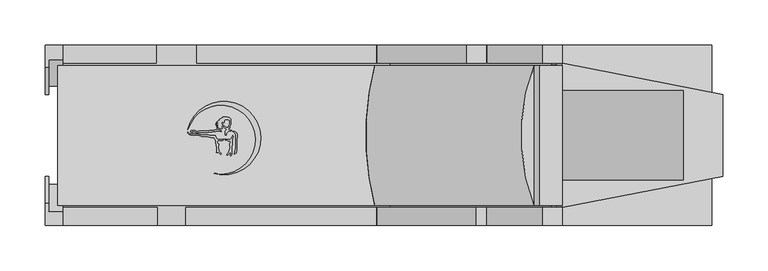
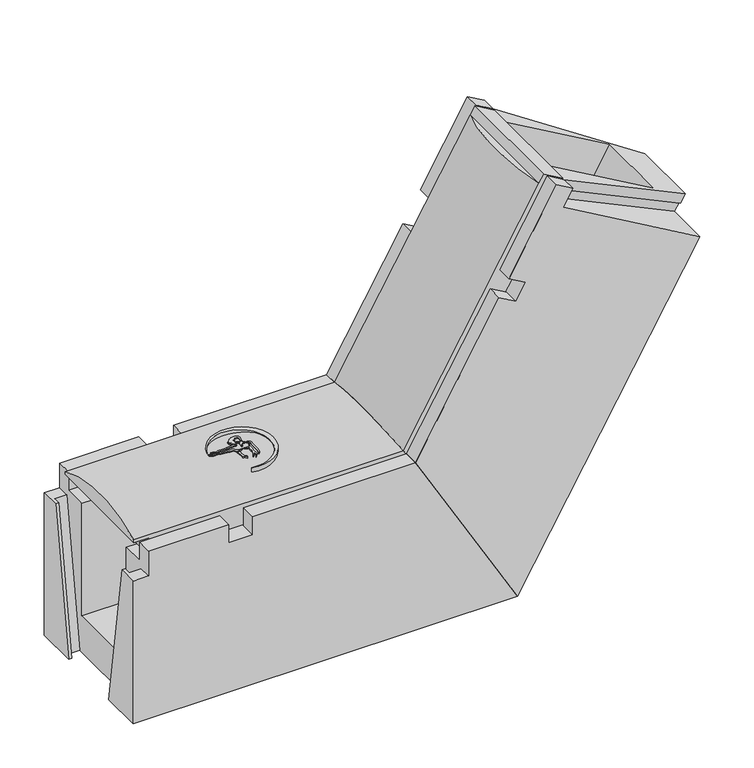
"""IFC4 building model written with IfcOpenShell, lengths in millimetres: cable carrier fitting geometry, Evotray type 1 vertical bend up : Evotray type 1 vertical bend up."""

from ifc_helpers import new_model, si_unit, point, frame, frame_2d, origin, place, context, project, spatial, polyline, circle_curve, ellipse_curve, trimmed, segment, composite_curve, outline, extrude, faceted_brep, source, transform, mapped, element, save
from ifc_brep_helpers import plane_surface, cylinder_surface, advanced_brep


def cable_carrier_fitting_fc5104e9(model_context):
    return source(origin(), model_context, "Body", "SolidModel", [
        extrude(outline(composite_curve([segment(polyline([(-180.1987673, 5.907559), (-178.7730763, 5.0844359), (-179.4820077, 4.6751342), (-182.0469375, 4.6751342), (-184.5064308, 2.2156409), (-184.5064308, 0.6319729), (-185.5639447, 0.3486129), (-185.8953119, 1.5852919), (-185.5730905, 2.7878385), (-185.5730905, 5.0146536), (-184.1065498, 6.4811943), (-184.5064308, 7.1738084), (-185.5730905, 7.7896447), (-186.4313624, 8.2851682), (-187.4244859, 9.2782918), (-187.4244859, 10.5283487), (-186.6366917, 10.0735155), (-185.5730905, 9.0099142), (-184.5064308, 8.394078), (-182.1936661, 8.394078), (-181.5617675, 9.0259766), (-181.5617675, 10.6343813), (-181.1559104, 11.3373462), (-180.9163405, 12.2314336), (-180.9163405, 16.3268685), (-181.5617675, 16.9722955), (-185.5730905, 17.3232408), (-186.3212546, 16.8912881), (-186.7531031, 16.1433045), (-186.9754965, 15.313321), (-187.2482129, 13.7666695), (-187.8042347, 14.3226912), (-188.3698905, 14.8883471), (-189.3304254, 14.8883471), (-189.8048648, 14.0665939), (-189.8048648, 13.2416885), (-189.4028177, 12.5453225), (-188.675123, 11.8176278), (-189.0717623, 10.3373496), (-189.4092623, 9.0777826), (-189.1064549, 7.3604762), (-189.907248, 7.2192748), (-191.6376932, 7.6829462), (-192.8844025, 8.2642963), (-193.6376597, 8.6155459), (-195.2371082, 8.33352), (-194.7695498, 9.1433549), (-193.1127288, 9.7463885)]), True, "CONTINUOUS"), segment(trimmed(circle_curve(frame_2d((-193.6788564, 9.4744491)), 0.6280537), [point((-193.1127288, 9.7463885))], [point((-193.8344386, 10.0829273))], True, "CARTESIAN"), True, "CONTINUOUS"), segment(polyline([(-193.8344386, 10.0829273), (-195.7814537, 10.0829273), (-195.2232755, 10.6411054), (-194.3724958, 10.9507639), (-193.5540563, 11.2486515)]), True, "CONTINUOUS"), segment(trimmed(circle_curve(frame_2d((-194.2923812, 11.2486515)), 0.7383249), [point((-193.5540563, 11.2486515))], [point((-194.2923812, 11.9869764))], True, "CARTESIAN"), True, "CONTINUOUS"), segment(polyline([(-194.2923812, 11.9869764), (-196.0001288, 11.9869764), (-196.3916504, 12.6651117), (-194.5730583, 12.9857785), (-193.2767203, 13.457607), (-193.897473, 14.0783597), (-195.8606925, 14.0783597), (-195.30811, 14.6309421), (-194.2782773, 15.2255163), (-193.603553, 15.9002407), (-192.8807357, 16.3175594), (-191.9057237, 16.8804829)]), True, "CONTINUOUS"), segment(trimmed(circle_curve(frame_2d((-192.1167091, 17.2459203)), 0.4219708), [point((-191.9057237, 16.8804829))], [point((-192.3276945, 17.6113577))], True, "CARTESIAN"), True, "CONTINUOUS"), segment(polyline([(-192.3276945, 17.6113577), (-191.7102978, 18.2287544), (-190.4076278, 18.7028875), (-189.4125713, 19.2773836), (-188.2810347, 19.4769041), (-188.6348604, 20.4490324), (-183.6348604, 20.4490324), (-182.6206866, 19.9761154), (-181.4988316, 19.6755153), (-180.4843855, 19.0898245), (-179.3757091, 17.9811481), (-179.3757091, 15.4151328), (-179.8646262, 14.5683035), (-179.8646262, 11.8362675), (-180.3536612, 10.7875287), (-180.760463, 10.0829273), (-180.760463, 8.2341629), (-181.5617675, 7.7715296), (-182.3950459, 7.6246001)]), True, "CONTINUOUS"), segment(trimmed(circle_curve(frame_2d((-181.3420944, 7.3424626)), 1.0900956), [point((-182.3950459, 7.6246001))], [point((-181.6242319, 6.2895111))], True, "CARTESIAN"), True, "CONTINUOUS"), segment(polyline([(-181.6242319, 6.2895111), (-180.1987673, 5.907559)]), True, "CONTINUOUS")], self_intersect=False)), frame((0.0, 0.0, 229.0645802), z_axis=(0.0, 0.0, 1.0), x_axis=(1.0, 0.0, 0.0)), (0.0, 0.0, 1.0), 22.5),
        extrude(outline(polyline([(-175.6420581, 3.0525563), (-177.5647021, 4.1625953), (-176.375462, 4.4812513), (-175.0006066, 3.9808448), (-172.8744575, 2.753312), (-172.462808, 1.2170154), (-172.462808, -1.5561738), (-172.8811889, -3.9289297), (-173.2073261, -13.2682758), (-173.2073261, -16.1231727), (-173.766974, -19.297094), (-174.9259981, -20.4561181), (-175.8234867, -20.4561181), (-175.1486125, -18.6019165), (-174.8396569, -16.8497423), (-174.3251997, -13.9321102), (-174.3251997, -2.6926455), (-173.883565, -0.1880111), (-174.4260419, 1.8365401), (-175.6420581, 3.0525563)])), frame((0.0, 0.0, 229.0645802), z_axis=(0.0, 0.0, 1.0), x_axis=(1.0, 0.0, 0.0)), (0.0, 0.0, 1.0), 22.5),
        extrude(outline(composite_curve([segment(polyline([(-183.070307, -4.5554644), (-181.0881056, -4.5554644), (-179.6198413, -4.2965698), (-178.3145593, -2.9912878), (-177.1344504, -0.4605362), (-176.6534984, -1.7819409), (-177.2762062, -3.117342), (-177.9468137, -4.5554644), (-177.9468137, -10.5136603), (-178.3751928, -12.943119), (-178.3751928, -21.4242609), (-179.8238515, -22.8729196), (-180.3965887, -22.3001824), (-179.7178687, -20.5578122), (-179.4597233, -19.0937972)]), True, "CONTINUOUS"), segment(trimmed(circle_curve(frame_2d((-179.8743713, -19.0937972)), 0.414648), [point((-179.4597233, -19.0937972))], [point((-180.2890194, -19.0937972))], True, "CARTESIAN"), True, "CONTINUOUS"), segment(polyline([(-180.2890194, -19.0937972), (-181.0547081, -19.8594859), (-182.3215546, -21.3692548), (-182.9770637, -22.0247639), (-183.7693849, -21.6552984), (-181.605165, -18.4467105), (-181.2992553, -16.7118106), (-180.4571975, -14.9060116), (-180.19999, -13.4473154), (-180.9884987, -12.0815782), (-180.9884987, -9.315031), (-179.6653502, -7.4454743)]), True, "CONTINUOUS"), segment(trimmed(circle_curve(frame_2d((-180.0024552, -7.2068937)), 0.4129897), [point((-179.6653502, -7.4454743))], [point((-180.2410358, -6.8697887))], True, "CARTESIAN"), True, "CONTINUOUS"), segment(polyline([(-180.2410358, -6.8697887), (-182.2448508, -6.516462), (-183.6887473, -5.843162), (-185.508748, -4.9944818), (-185.508748, -4.1255015), (-183.070307, -4.5554644)]), True, "CONTINUOUS")], self_intersect=False)), frame((0.0, 0.0, 229.0645802), z_axis=(0.0, 0.0, 1.0), x_axis=(1.0, 0.0, 0.0)), (0.0, 0.0, 1.0), 22.5),
        extrude(outline(composite_curve([segment(polyline([(-225.4819029, 2.2537302), (-223.7462291, 1.4443722), (-219.5597552, 1.4443722), (-218.4890341, 1.731271), (-217.1624965, 1.731271), (-215.4413877, 1.4443722), (-213.4350656, 0.9067798), (-212.2818775, 0.597784), (-206.5899708, 0.597784), (-203.9734749, 0.1616293), (-202.6459123, -0.19409), (-197.03167, -0.19409)]), True, "CONTINUOUS"), segment(trimmed(circle_curve(frame_2d((-188.1781038, 2.7115165)), 9.3181642), [point((-197.03167, -0.19409))], [point((-193.6774022, -4.8108435))], True, "CARTESIAN"), True, "CONTINUOUS"), segment(polyline([(-193.6774022, -4.8108435), (-190.6256174, -4.8108435), (-188.5910388, -4.632841), (-187.4520349, -4.1017147), (-187.7095548, -5.0627921), (-188.6536491, -5.6078652), (-189.612336, -5.9567987), (-192.847041, -5.8438403), (-194.0357356, -6.2764898), (-194.44473, -7.153581), (-194.3696494, -8.0117562), (-193.8907652, -8.8412079), (-193.1701597, -9.5618134), (-193.1701597, -11.3180259), (-193.53546, -12.3216801), (-193.3911934, -13.970655), (-192.8861011, -15.8556852), (-192.737982, -17.5486944), (-190.3666469, -20.2766033), (-190.5753239, -21.4600691), (-193.1701597, -18.8652332), (-194.1329913, -19.1232231), (-195.5361675, -18.8758053), (-195.2606072, -18.1187094), (-195.2606072, -15.8446539), (-195.0850033, -14.8487551), (-195.2606072, -12.8415943), (-195.6362696, -11.8094702), (-195.6362696, -9.9842873), (-196.0826053, -9.0271173), (-196.0826053, -6.6493678), (-196.3310455, -5.7221762), (-196.7830159, -4.9393406), (-197.2317276, -4.1621491), (-197.84617, -3.5477067), (-198.2800213, -2.6173096), (-201.8809595, -2.4915621), (-204.2251115, -2.1008055), (-206.2577048, -1.5561738), (-209.5993244, -1.2049554), (-211.6789374, -1.2049554), (-213.021172, -0.8453047), (-214.5447671, -0.4370587), (-215.8880204, 0.1893106), (-216.8824091, 0.1893106), (-219.5338495, 0.1893106), (-220.6460936, -0.1087143), (-222.5093755, 0.0871245), (-223.9984504, 0.3353447), (-225.6717579, 1.1156208), (-226.6476843, 2.0915471), (-227.2867674, 2.7306302), (-227.2867674, 3.5175099), (-225.4819029, 2.2537302)]), True, "CONTINUOUS")], self_intersect=False)), frame((0.0, 0.0, 229.0645802), z_axis=(0.0, 0.0, 1.0), x_axis=(1.0, 0.0, 0.0)), (0.0, 0.0, 1.0), 22.5),
        extrude(outline(composite_curve([segment(polyline([(-222.9796703, 3.7977023), (-221.956356, 3.2068915), (-223.6840165, 3.7265624), (-224.014163, 4.6441261), (-223.1758386, 5.4824506), (-220.30302, 5.4824506), (-219.318583, 5.0847122), (-218.2280942, 4.6441261), (-217.4299007, 4.1832889), (-216.1696706, 4.1832889), (-215.3486455, 4.4787), (-214.4633932, 4.9898007), (-208.0496883, 4.9898007), (-207.1941137, 4.6441261), (-206.1237116, 4.6441261), (-205.1629915, 4.9898007), (-203.9838348, 4.9898007), (-203.2654957, 5.4045339), (-197.8528405, 5.4045339), (-197.0925598, 5.6780888), (-195.8504018, 5.6780888), (-195.2746333, 6.2538574), (-193.3170698, 6.2538574), (-192.0290688, 5.7334711), (-191.0171524, 5.1492409), (-190.2127113, 4.8242256)]), True, "CONTINUOUS"), segment(trimmed(circle_curve(frame_2d((-190.6200436, 4.6596527)), 0.4393221), [point((-190.2127113, 4.8242256))], [point((-190.7846166, 4.2523203))], False, "CARTESIAN"), True, "CONTINUOUS"), segment(polyline([(-190.7846166, 4.2523203), (-191.8003453, 4.6627013), (-193.112003, 4.6627013), (-194.382433, 4.8867124), (-195.1944574, 4.5945398), (-196.3374314, 4.1832889), (-199.6816293, 4.1832889), (-200.4727027, 3.7265624), (-204.0400229, 3.7265624), (-204.9228853, 3.2168416), (-214.9228853, 3.2168416), (-217.5335493, 2.9884381), (-221.222077, 4.4787), (-223.3728446, 4.4787), (-222.9796703, 3.7977023)]), True, "CONTINUOUS")], self_intersect=False)), frame((0.0, 0.0, 229.0645802), z_axis=(0.0, 0.0, 1.0), x_axis=(1.0, 0.0, 0.0)), (0.0, 0.0, 1.0), 22.5),
        extrude(outline(composite_curve([segment(trimmed(circle_curve(frame_2d((-190.3994103, -4.8721323)), 38.3616107), [point((-197.8072471, -42.511701))], [point((-227.1109456, 6.2578432))], True, "CARTESIAN"), True, "CONTINUOUS"), segment(trimmed(circle_curve(frame_2d((-187.2700096, -2.9917986)), 40.900563), [point((-227.1109456, 6.2578432))], [point((-197.8072471, -42.511701))], False, "CARTESIAN"), True, "CONTINUOUS")], self_intersect=False)), frame((0.0, 0.0, 229.0645802), z_axis=(0.0, 0.0, 1.0), x_axis=(1.0, 0.0, 0.0)), (0.0, 0.0, 1.0), 22.5),
        advanced_brep(
        [(-3.3568052, -77.5, 205.0), (187.4647922, -77.5, 535.5127019), (162.3708892, -77.5, 550.0006735), (156.3708892, -77.5, 539.6083687), (-20.099963, -77.5, 234.0), (187.4647922, 77.5, 535.5127019), (-3.3568052, 77.5, 205.0), (-20.099963, 77.5, 234.0), (156.3500555, 77.5, 539.620397), (162.3708892, 77.5, 550.0006735)],
        [
            (0, 1),
            (1, 2),
            (2, 3),
            (3, 4),
            (4, 0),
            (5, 6),
            (6, 7),
            (7, 8),
            (8, 9),
            (9, 5),
            (1, 5),
            (9, 2),
            (6, 0),
            (4, 7, ellipse_curve(frame((77.2436862, 0.0, 65.3958538), z_axis=(-0.8660254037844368, 0.0, -0.5000000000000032), x_axis=(-0.5000000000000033, 0.0, 0.8660254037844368)), 214.2696373, 185.5629492)),
            (8, 3),
            (8, 3, circle_curve(frame((302.3655293, 0.0, 455.318324), z_axis=(0.500000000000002, 0.0, 0.8660254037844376), x_axis=(0.0, -1.0, 0.0)), 185.5629492)),
        ],
        [
            plane_surface(frame((187.4647922, -77.5, 535.5127019), z_axis=(0.0, -1.0, 0.0), x_axis=(-0.8660254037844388, 0.0, 0.4999999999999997))),
            plane_surface(frame((187.4647922, 77.5, 535.5127019), z_axis=(0.0, 1.0, 0.0), x_axis=(0.8660254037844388, 0.0, -0.4999999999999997))),
            plane_surface(frame((187.4647922, -77.5, 535.5127019), z_axis=(0.4999999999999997, 0.0, 0.8660254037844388), x_axis=(0.0, 1.0, 0.0))),
            plane_surface(frame((-29.9149176, -77.5, 251.0), z_axis=(-0.8660254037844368, 0.0, -0.5000000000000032), x_axis=(0.0, 1.0, 0.0))),
            plane_surface(frame((-3.3568052, -77.5, 205.0), z_axis=(0.8660254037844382, 0.0, -0.5000000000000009), x_axis=(0.0, 1.0, 0.0))),
            plane_surface(frame((162.3708892, -77.5, 550.0006735), z_axis=(-0.866025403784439, 0.0, 0.4999999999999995), x_axis=(-0.4999999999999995, 0.0, -0.866025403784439))),
            plane_surface(frame((156.3708892, -77.5, 539.6083687), z_axis=(0.5000000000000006, 0.0, 0.8660254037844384), x_axis=(-0.8660254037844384, 0.0, 0.5000000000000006))),
            cylinder_surface(frame((124.18346, 0.0, 146.6979269), z_axis=(0.500000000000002, 0.0, 0.8660254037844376), x_axis=(0.0, -1.0, 0.0)), 185.5629492),
        ],
        [
            (0, [[1, 2, 3, 4, 5]]),
            (1, [[6, 7, 8, 9, 10]]),
            (2, [[11, -10, 12, -2]]),
            (3, [[13, -5, 14, -7]]),
            (4, [[-1, -13, -6, -11]]),
            (5, [[15, -3, -12, -9]]),
            (6, [[-15, 16]]),
            (7, [[-4, -16, -8, -14]]),
        ],
    ),
        advanced_brep(
        [(-351.0, -77.5, 205.0), (-3.3568052, -77.5, 205.0), (-20.099963, -77.5, 234.0), (-371.0, -77.5, 234.0), (-371.0, -77.5, 230.0), (-351.0, -77.5, 230.0), (-3.3568052, 77.5, 205.0), (-351.0, 77.5, 205.0), (-351.0, 77.5, 230.0), (-371.0, 77.5, 230.0), (-371.0, 77.5, 234.0), (-20.099963, 77.5, 234.0)],
        [
            (0, 1),
            (1, 2),
            (2, 3),
            (3, 4),
            (4, 5),
            (5, 0),
            (6, 7),
            (7, 8),
            (8, 9),
            (9, 10),
            (10, 11),
            (11, 6),
            (9, 4),
            (3, 10, circle_curve(frame((-371.0, 0.0, 65.3958538), z_axis=(-1.0, 0.0, 0.0), x_axis=(0.0, -1.0, 0.0)), 185.5629492)),
            (6, 1),
            (0, 7),
            (11, 2, ellipse_curve(frame((77.2436862, 0.0, 65.3958538), z_axis=(0.8660254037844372, 0.0, 0.5000000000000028), x_axis=(0.5000000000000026, 0.0, -0.8660254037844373)), 214.2696373, 185.5629492)),
            (8, 5),
        ],
        [
            plane_surface(frame((-371.0, -77.5, 205.0), z_axis=(0.0, -1.0, 0.0), x_axis=(0.0, 0.0, -1.0))),
            plane_surface(frame((-371.0, 77.5, 205.0), z_axis=(0.0, 1.0, 0.0), x_axis=(0.0, 0.0, 1.0))),
            plane_surface(frame((-371.0, -77.5, 251.0), z_axis=(-1.0, 0.0, 0.0), x_axis=(0.0, 1.0, 0.0))),
            plane_surface(frame((-371.0, -77.5, 205.0), z_axis=(0.0, 0.0, -1.0), x_axis=(0.0, 1.0, 0.0))),
            plane_surface(frame((-3.3568052, -77.5, 205.0), z_axis=(0.8660254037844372, 0.0, 0.5000000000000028), x_axis=(0.0, 1.0, 0.0))),
            plane_surface(frame((-371.0, 77.5, 230.0), z_axis=(0.0, 0.0, -1.0), x_axis=(-1.0, 0.0, 0.0))),
            plane_surface(frame((-351.0, -77.5, 230.0), z_axis=(-1.0, 0.0, 0.0), x_axis=(0.0, 0.0, -1.0))),
            cylinder_surface(frame((-371.0, 0.0, 65.3958538), z_axis=(1.0, 0.0, 0.0), x_axis=(0.0, -1.0, 0.0)), 185.5629492),
        ],
        [
            (0, [[1, 2, 3, 4, 5, 6]]),
            (1, [[7, 8, 9, 10, 11, 12]]),
            (2, [[13, -4, 14, -10]]),
            (3, [[15, -1, 16, -7]]),
            (4, [[-15, -12, 17, -2]]),
            (5, [[18, -5, -13, -9]]),
            (6, [[-18, -8, -16, -6]]),
            (7, [[-3, -17, -11, -14]]),
        ],
    ),
        faceted_brep([(-17.7905619, -100.0, 230.0), (115.0, -100.0, 0.0), (352.5, -100.0, 411.3620668), (174.9647922, -100.0, 513.8620668), (187.4647922, -100.0, 535.5127019), (165.8141571, -100.0, 548.0127019), (103.8141571, -100.0, 440.6255518), (125.4647922, -100.0, 428.1255518), (112.9647922, -100.0, 406.4749167), (91.3141571, -100.0, 418.9749167), (115.0, 100.0, 0.0), (-17.7905619, 100.0, 230.0), (81.8141571, 100.0, 402.5204341), (103.4647922, 100.0, 390.0204341), (125.9647922, 100.0, 428.9915772), (104.3141571, 100.0, 441.4915772), (165.8141571, 100.0, 548.0127019), (187.4647922, 100.0, 535.5127019), (174.9647922, 100.0, 513.8620668), (352.5, 100.0, 411.3620668), (187.4647922, -50.0, 535.5127019), (187.4647922, -80.0, 535.5127019), (365.0, -45.4, 433.0127019), (365.0, 45.4, 433.0127019), (187.4647922, 80.0, 535.5127019), (187.4647922, 50.0, 535.5127019), (321.6987298, 50.0, 458.0127019), (321.6987298, -50.0, 458.0127019), (165.8141571, -80.0, 548.0127019), (165.8141571, 80.0, 548.0127019), (103.8141571, -80.0, 440.6255518), (104.3141571, 80.0, 441.4915772), (-17.7905619, -80.0, 230.0), (91.3141571, -80.0, 418.9749167), (-17.7905619, 80.0, 230.0), (81.8141571, 80.0, 402.5204341), (-3.3568052, -80.0, 205.0), (-3.3568052, -50.0, 205.0), (86.1324865, -50.0, 50.0), (86.1324865, 50.0, 50.0), (-3.3568052, 50.0, 205.0), (-3.3568052, 80.0, 205.0), (352.5, 43.0, 411.3620668), (358.5, 43.0, 421.7543716), (358.5, 45.4, 421.7543716), (358.5, -45.4, 421.7543716), (358.5, -43.0, 421.7543716), (352.5, -43.0, 411.3620668), (180.9647922, -80.0, 524.2543716), (174.9647922, -80.0, 513.8620668), (125.4647922, -80.0, 428.1255518), (112.9647922, -80.0, 406.4749167), (125.9647922, 80.0, 428.9915772), (174.9647922, 80.0, 513.8620668), (180.9647922, 80.0, 524.2543716), (103.4647922, 80.0, 390.0204341), (174.9647922, -77.6, 513.8620668), (180.9647922, -77.6, 524.2543716), (180.9647922, 77.6, 524.2543716), (174.9647922, 77.6, 513.8620668)], [[[0, 1, 2, 3, 4, 5, 6, 7, 8, 9]], [[10, 11, 12, 13, 14, 15, 16, 17, 18, 19]], [[20, 21, 22, 23, 24, 25, 26, 27]], [[28, 5, 4, 21]], [[16, 29, 24, 17]], [[5, 28, 30, 6]], [[29, 16, 15, 31]], [[32, 0, 9, 33]], [[11, 34, 35, 12]], [[1, 0, 32, 36, 37, 38, 39, 40, 41, 34, 11, 10]], [[1, 10, 19, 42, 43, 44, 23, 22, 45, 46, 47, 2]], [[28, 21, 48, 49, 50, 30]], [[36, 32, 33, 51]], [[24, 29, 31, 52, 53, 54]], [[34, 41, 55, 35]], [[37, 36, 51, 8, 7, 50, 49, 56, 57, 48, 21, 20]], [[41, 40, 25, 24, 54, 58, 59, 53, 52, 14, 13, 55]], [[27, 38, 37, 20]], [[39, 26, 25, 40]], [[38, 27, 26, 39]], [[48, 21, 4, 3, 49]], [[21, 48, 45, 22]], [[24, 54, 53, 18, 17]], [[54, 24, 23, 44]], [[46, 57, 56, 47]], [[47, 56, 49, 3, 2]], [[57, 46, 45, 48]], [[42, 59, 58, 43]], [[59, 42, 19, 18, 53]], [[43, 58, 54, 44]], [[55, 13, 12, 35]], [[14, 52, 31, 15]], [[50, 7, 6, 30]], [[8, 51, 33, 9]]]),
        faceted_brep([(-385.0, -100.0, 0.0), (115.0, -100.0, 0.0), (-17.7905619, -100.0, 230.0), (-229.6518259, -100.0, 230.0), (-229.6518259, -100.0, 205.0), (-261.0, -100.0, 205.0), (-261.0, -100.0, 230.0), (-365.0130369, -100.0, 230.0), (-365.0130369, -100.0, 196.0), (-385.0, -100.0, 196.0), (-17.7905619, 100.0, 230.0), (115.0, 100.0, 0.0), (-385.0, 100.0, 0.0), (-385.0, 100.0, 196.0), (-365.0130369, 100.0, 196.0), (-365.0130369, 100.0, 230.0), (-262.0, 100.0, 230.0), (-262.0, 100.0, 205.0), (-217.0, 100.0, 205.0), (-217.0, 100.0, 230.0), (-17.7905619, -80.0, 230.0), (-229.6518259, -80.0, 230.0), (-17.7905619, 80.0, 230.0), (-217.0, 80.0, 230.0), (-365.0130369, -80.0, 230.0), (-261.0, -80.0, 230.0), (-365.0130369, 80.0, 230.0), (-262.0, 80.0, 230.0), (-385.0, -45.45, 0.0), (-385.0, -74.8926087, 196.0), (-385.0, 45.45, 0.0), (-385.0, 74.8926087, 196.0), (-381.0, -45.45, 0.0), (-381.0, -54.6, 0.0), (-365.0, -54.6, 0.0), (-365.0, 54.6, 0.0), (-381.0, 54.6, 0.0), (-381.0, 45.45, 0.0), (-3.3568052, 80.0, 205.0), (-3.3568052, 50.0, 205.0), (86.1324865, 50.0, 50.0), (86.1324865, -50.0, 50.0), (-3.3568052, -50.0, 205.0), (-3.3568052, -80.0, 205.0), (-381.0, 74.8926087, 196.0), (-381.0, -74.8926087, 196.0), (-365.0, 84.0426087, 196.0), (-381.0, 84.0426087, 196.0), (-381.0, -84.0426087, 196.0), (-365.0, -84.0426087, 196.0), (-365.0, -80.0, 205.0), (-365.0, -77.5, 205.0), (-365.0, -50.0, 205.0), (-365.0, -50.0, 50.0), (-365.0, 50.0, 50.0), (-365.0, 50.0, 205.0), (-365.0, 77.5, 205.0), (-365.0, 80.0, 205.0), (-229.6518259, -80.0, 205.0), (-261.0, -80.0, 205.0), (-217.0, 80.0, 205.0), (-262.0, 80.0, 205.0), (-351.0, 50.0, 205.0), (-351.0, -50.0, 205.0)], [[[0, 1, 2, 3, 4, 5, 6, 7, 8, 9]], [[10, 11, 12, 13, 14, 15, 16, 17, 18, 19]], [[2, 20, 21, 3]], [[22, 10, 19, 23]], [[24, 7, 6, 25]], [[15, 26, 27, 16]], [[28, 0, 9, 29]], [[12, 30, 31, 13]], [[1, 0, 28, 32, 33, 34, 35, 36, 37, 30, 12, 11]], [[2, 1, 11, 10, 22, 38, 39, 40, 41, 42, 43, 20]], [[30, 37, 44, 31]], [[32, 28, 29, 45]], [[36, 35, 46, 47]], [[33, 32, 45, 48]], [[37, 36, 47, 44]], [[34, 33, 48, 49]], [[35, 34, 49, 8, 7, 24, 50, 51, 52, 53, 54, 55, 56, 57, 26, 15, 14, 46]], [[8, 49, 48, 45, 29, 9]], [[46, 14, 13, 31, 44, 47]], [[20, 43, 58, 21]], [[50, 24, 25, 59]], [[38, 22, 23, 60]], [[26, 57, 61, 27]], [[39, 38, 60, 18, 17, 61, 57, 56, 55, 62]], [[43, 42, 63, 52, 51, 50, 59, 5, 4, 58]], [[41, 53, 52, 63, 42]], [[54, 40, 39, 62, 55]], [[53, 41, 40, 54]], [[61, 17, 16, 27]], [[18, 60, 23, 19]], [[5, 59, 25, 6]], [[58, 4, 3, 21]]]),
    ])


if __name__ == "__main__":
    model = new_model("IFC4")
    model_context = context("Model", 3, world=origin())
    ifc_project = project(units=[si_unit("LENGTHUNIT", "METRE", prefix="MILLI")], contexts=[model_context])
    site = spatial("IfcSite", under=ifc_project)
    building = spatial("IfcBuilding", under=site)
    placement = place(None, origin())
    cable_carrier_fitting_shape = cable_carrier_fitting_fc5104e9(model_context)
    element("IfcCableCarrierFitting", 1, ObjectType="Evotray type 1 vertical bend up : Evotray type 1 vertical bend up", at=placement, inside=building, context=model_context, shape_type="MappedRepresentation", body=[
        mapped(cable_carrier_fitting_shape, transform((0.0, 0.0, 0.0), x_axis=(1.0, 0.0, 0.0), y_axis=(0.0, 1.0, 0.0), z_axis=(0.0, 0.0, 1.0))),
    ])
    save(model, "model.ifc")
